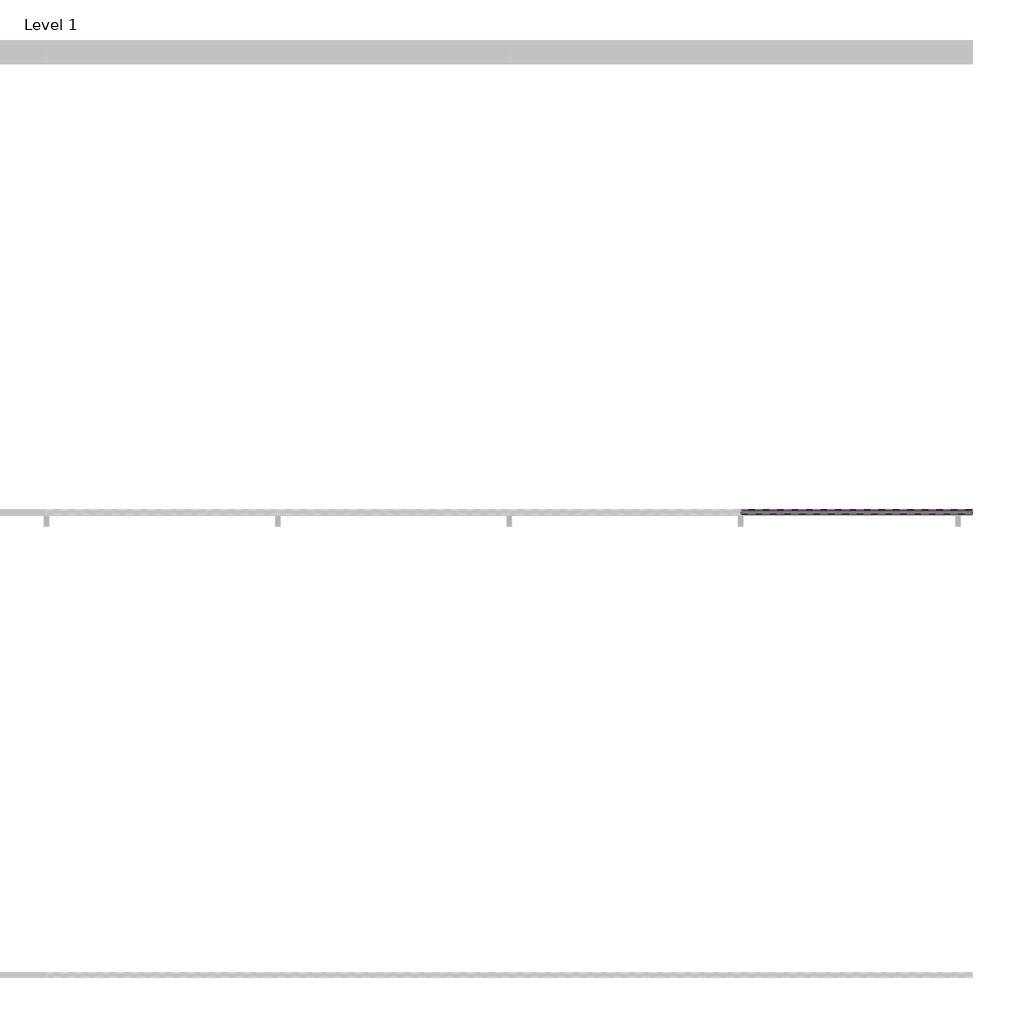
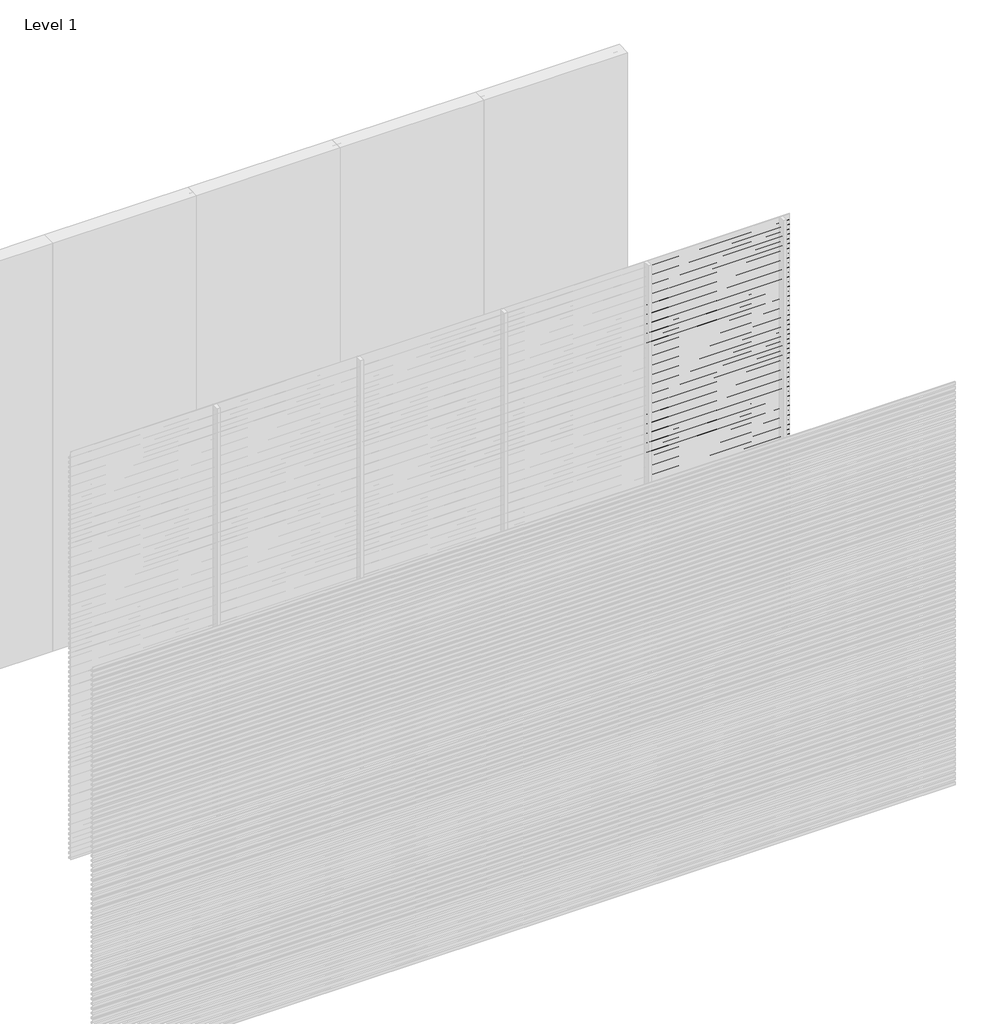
# One storey, part 19 of 25: 98 proxies.
"""IFC4 building model written with IfcOpenShell, lengths in millimetres."""

from ifc_helpers import new_model, si_unit, frame, origin, place, context, project, spatial, polyline, outline, extrude, element, save

model = new_model("IFC4")

# Units and contexts
model_context = context("Model", 3, world=origin())
ifc_project = project(units=[si_unit("LENGTHUNIT", "METRE", prefix="MILLI")], contexts=[model_context])

# Site, building, storey
site = spatial("IfcSite", under=ifc_project)
building = spatial("IfcBuilding", under=site)
storey = spatial("IfcBuildingStorey", under=building, Name="Level 1", Elevation=0.0)

# Proxies
placement = place(None, origin())
element("IfcBuildingElementProxy", 1, Name="Wall Sweeps", at=placement, inside=storey, context=model_context, shape_type="SweptSolid", body=[
    extrude(outline(polyline([(-5995.0, 1015.0), (-5995.0, 1003.942893), (-5976.0, 988.0), (-5976.0, 975.0), (-5997.0, 992.6210923), (-5997.0, 1015.0), (-5995.0, 1015.0)])), frame((4000.0, 0.0, 0.0), z_axis=(1.0, 0.0, 0.0), x_axis=(0.0, 1.0, 0.0)), (0.0, 0.0, 1.0), 1000.0),
])
element("IfcBuildingElementProxy", 2, Name="Wall Sweeps", at=placement, inside=storey, context=model_context, shape_type="SweptSolid", body=[
    extrude(outline(polyline([(-5995.0, 980.0), (-5995.0, 968.942893), (-5976.0, 953.0), (-5976.0, 940.0), (-5997.0, 957.6210923), (-5997.0, 980.0), (-5995.0, 980.0)])), frame((4000.0, 0.0, 0.0), z_axis=(1.0, 0.0, 0.0), x_axis=(0.0, 1.0, 0.0)), (0.0, 0.0, 1.0), 1000.0),
])
element("IfcBuildingElementProxy", 3, Name="Wall Sweeps", at=placement, inside=storey, context=model_context, shape_type="SweptSolid", body=[
    extrude(outline(polyline([(-5995.0, 945.0), (-5995.0, 933.942893), (-5976.0, 918.0), (-5976.0, 905.0), (-5997.0, 922.6210923), (-5997.0, 945.0), (-5995.0, 945.0)])), frame((4000.0, 0.0, 0.0), z_axis=(1.0, 0.0, 0.0), x_axis=(0.0, 1.0, 0.0)), (0.0, 0.0, 1.0), 1000.0),
])
element("IfcBuildingElementProxy", 4, Name="Wall Sweeps", at=placement, inside=storey, context=model_context, shape_type="SweptSolid", body=[
    extrude(outline(polyline([(-5995.0, 910.0), (-5995.0, 898.942893), (-5976.0, 883.0), (-5976.0, 870.0), (-5997.0, 887.6210923), (-5997.0, 910.0), (-5995.0, 910.0)])), frame((4000.0, 0.0, 0.0), z_axis=(1.0, 0.0, 0.0), x_axis=(0.0, 1.0, 0.0)), (0.0, 0.0, 1.0), 1000.0),
])
element("IfcBuildingElementProxy", 5, Name="Wall Sweeps", at=placement, inside=storey, context=model_context, shape_type="SweptSolid", body=[
    extrude(outline(polyline([(-5995.0, 875.0), (-5995.0, 863.942893), (-5976.0, 848.0), (-5976.0, 835.0), (-5997.0, 852.6210923), (-5997.0, 875.0), (-5995.0, 875.0)])), frame((4000.0, 0.0, 0.0), z_axis=(1.0, 0.0, 0.0), x_axis=(0.0, 1.0, 0.0)), (0.0, 0.0, 1.0), 1000.0),
])
element("IfcBuildingElementProxy", 6, Name="Wall Sweeps", at=placement, inside=storey, context=model_context, shape_type="SweptSolid", body=[
    extrude(outline(polyline([(-5995.0, 840.0), (-5995.0, 828.942893), (-5976.0, 813.0), (-5976.0, 800.0), (-5997.0, 817.6210923), (-5997.0, 840.0), (-5995.0, 840.0)])), frame((4000.0, 0.0, 0.0), z_axis=(1.0, 0.0, 0.0), x_axis=(0.0, 1.0, 0.0)), (0.0, 0.0, 1.0), 1000.0),
])
element("IfcBuildingElementProxy", 7, Name="Wall Sweeps", at=placement, inside=storey, context=model_context, shape_type="SweptSolid", body=[
    extrude(outline(polyline([(-5995.0, 805.0), (-5995.0, 793.942893), (-5976.0, 778.0), (-5976.0, 765.0), (-5997.0, 782.6210923), (-5997.0, 805.0), (-5995.0, 805.0)])), frame((4000.0, 0.0, 0.0), z_axis=(1.0, 0.0, 0.0), x_axis=(0.0, 1.0, 0.0)), (0.0, 0.0, 1.0), 1000.0),
])
element("IfcBuildingElementProxy", 8, Name="Wall Sweeps", at=placement, inside=storey, context=model_context, shape_type="SweptSolid", body=[
    extrude(outline(polyline([(-5995.0, 770.0), (-5995.0, 758.942893), (-5976.0, 743.0), (-5976.0, 730.0), (-5997.0, 747.6210923), (-5997.0, 770.0), (-5995.0, 770.0)])), frame((4000.0, 0.0, 0.0), z_axis=(1.0, 0.0, 0.0), x_axis=(0.0, 1.0, 0.0)), (0.0, 0.0, 1.0), 1000.0),
])
element("IfcBuildingElementProxy", 9, Name="Wall Sweeps", at=placement, inside=storey, context=model_context, shape_type="SweptSolid", body=[
    extrude(outline(polyline([(-5995.0, 735.0), (-5995.0, 723.942893), (-5976.0, 708.0), (-5976.0, 695.0), (-5997.0, 712.6210923), (-5997.0, 735.0), (-5995.0, 735.0)])), frame((4000.0, 0.0, 0.0), z_axis=(1.0, 0.0, 0.0), x_axis=(0.0, 1.0, 0.0)), (0.0, 0.0, 1.0), 1000.0),
])
element("IfcBuildingElementProxy", 10, Name="Wall Sweeps", at=placement, inside=storey, context=model_context, shape_type="SweptSolid", body=[
    extrude(outline(polyline([(-5995.0, 700.0), (-5995.0, 688.942893), (-5976.0, 673.0), (-5976.0, 660.0), (-5997.0, 677.6210923), (-5997.0, 700.0), (-5995.0, 700.0)])), frame((4000.0, 0.0, 0.0), z_axis=(1.0, 0.0, 0.0), x_axis=(0.0, 1.0, 0.0)), (0.0, 0.0, 1.0), 1000.0),
])
element("IfcBuildingElementProxy", 11, Name="Wall Sweeps", at=placement, inside=storey, context=model_context, shape_type="SweptSolid", body=[
    extrude(outline(polyline([(-5995.0, 665.0), (-5995.0, 653.942893), (-5976.0, 638.0), (-5976.0, 625.0), (-5997.0, 642.6210923), (-5997.0, 665.0), (-5995.0, 665.0)])), frame((4000.0, 0.0, 0.0), z_axis=(1.0, 0.0, 0.0), x_axis=(0.0, 1.0, 0.0)), (0.0, 0.0, 1.0), 1000.0),
])
element("IfcBuildingElementProxy", 12, Name="Wall Sweeps", at=placement, inside=storey, context=model_context, shape_type="SweptSolid", body=[
    extrude(outline(polyline([(-5995.0, 630.0), (-5995.0, 618.942893), (-5976.0, 603.0), (-5976.0, 590.0), (-5997.0, 607.6210923), (-5997.0, 630.0), (-5995.0, 630.0)])), frame((4000.0, 0.0, 0.0), z_axis=(1.0, 0.0, 0.0), x_axis=(0.0, 1.0, 0.0)), (0.0, 0.0, 1.0), 1000.0),
])
element("IfcBuildingElementProxy", 13, Name="Wall Sweeps", at=placement, inside=storey, context=model_context, shape_type="SweptSolid", body=[
    extrude(outline(polyline([(-5995.0, 595.0), (-5995.0, 583.942893), (-5976.0, 568.0), (-5976.0, 555.0), (-5997.0, 572.6210923), (-5997.0, 595.0), (-5995.0, 595.0)])), frame((4000.0, 0.0, 0.0), z_axis=(1.0, 0.0, 0.0), x_axis=(0.0, 1.0, 0.0)), (0.0, 0.0, 1.0), 1000.0),
])
element("IfcBuildingElementProxy", 14, Name="Wall Sweeps", at=placement, inside=storey, context=model_context, shape_type="SweptSolid", body=[
    extrude(outline(polyline([(-5995.0, 560.0), (-5995.0, 548.942893), (-5976.0, 533.0), (-5976.0, 520.0), (-5997.0, 537.6210923), (-5997.0, 560.0), (-5995.0, 560.0)])), frame((4000.0, 0.0, 0.0), z_axis=(1.0, 0.0, 0.0), x_axis=(0.0, 1.0, 0.0)), (0.0, 0.0, 1.0), 1000.0),
])
element("IfcBuildingElementProxy", 15, Name="Wall Sweeps", at=placement, inside=storey, context=model_context, shape_type="SweptSolid", body=[
    extrude(outline(polyline([(-5995.0, 525.0), (-5995.0, 513.942893), (-5976.0, 498.0), (-5976.0, 485.0), (-5997.0, 502.6210923), (-5997.0, 525.0), (-5995.0, 525.0)])), frame((4000.0, 0.0, 0.0), z_axis=(1.0, 0.0, 0.0), x_axis=(0.0, 1.0, 0.0)), (0.0, 0.0, 1.0), 1000.0),
])
element("IfcBuildingElementProxy", 16, Name="Wall Sweeps", at=placement, inside=storey, context=model_context, shape_type="SweptSolid", body=[
    extrude(outline(polyline([(-5995.0, 490.0), (-5995.0, 478.942893), (-5976.0, 463.0), (-5976.0, 450.0), (-5997.0, 467.6210923), (-5997.0, 490.0), (-5995.0, 490.0)])), frame((4000.0, 0.0, 0.0), z_axis=(1.0, 0.0, 0.0), x_axis=(0.0, 1.0, 0.0)), (0.0, 0.0, 1.0), 1000.0),
])
element("IfcBuildingElementProxy", 17, Name="Wall Sweeps", at=placement, inside=storey, context=model_context, shape_type="SweptSolid", body=[
    extrude(outline(polyline([(-5995.0, 455.0), (-5995.0, 443.942893), (-5976.0, 428.0), (-5976.0, 415.0), (-5997.0, 432.6210923), (-5997.0, 455.0), (-5995.0, 455.0)])), frame((4000.0, 0.0, 0.0), z_axis=(1.0, 0.0, 0.0), x_axis=(0.0, 1.0, 0.0)), (0.0, 0.0, 1.0), 1000.0),
])
element("IfcBuildingElementProxy", 18, Name="Wall Sweeps", at=placement, inside=storey, context=model_context, shape_type="SweptSolid", body=[
    extrude(outline(polyline([(-5995.0, 420.0), (-5995.0, 408.942893), (-5976.0, 393.0), (-5976.0, 380.0), (-5997.0, 397.6210923), (-5997.0, 420.0), (-5995.0, 420.0)])), frame((4000.0, 0.0, 0.0), z_axis=(1.0, 0.0, 0.0), x_axis=(0.0, 1.0, 0.0)), (0.0, 0.0, 1.0), 1000.0),
])
element("IfcBuildingElementProxy", 19, Name="Wall Sweeps", at=placement, inside=storey, context=model_context, shape_type="SweptSolid", body=[
    extrude(outline(polyline([(-5995.0, 385.0), (-5995.0, 373.942893), (-5976.0, 358.0), (-5976.0, 345.0), (-5997.0, 362.6210923), (-5997.0, 385.0), (-5995.0, 385.0)])), frame((4000.0, 0.0, 0.0), z_axis=(1.0, 0.0, 0.0), x_axis=(0.0, 1.0, 0.0)), (0.0, 0.0, 1.0), 1000.0),
])
element("IfcBuildingElementProxy", 20, Name="Wall Sweeps", at=placement, inside=storey, context=model_context, shape_type="SweptSolid", body=[
    extrude(outline(polyline([(-5995.0, 350.0), (-5995.0, 338.942893), (-5976.0, 323.0), (-5976.0, 310.0), (-5997.0, 327.6210923), (-5997.0, 350.0), (-5995.0, 350.0)])), frame((4000.0, 0.0, 0.0), z_axis=(1.0, 0.0, 0.0), x_axis=(0.0, 1.0, 0.0)), (0.0, 0.0, 1.0), 1000.0),
])
element("IfcBuildingElementProxy", 21, Name="Wall Sweeps", at=placement, inside=storey, context=model_context, shape_type="SweptSolid", body=[
    extrude(outline(polyline([(-5995.0, 315.0), (-5995.0, 303.942893), (-5976.0, 288.0), (-5976.0, 275.0), (-5997.0, 292.6210923), (-5997.0, 315.0), (-5995.0, 315.0)])), frame((4000.0, 0.0, 0.0), z_axis=(1.0, 0.0, 0.0), x_axis=(0.0, 1.0, 0.0)), (0.0, 0.0, 1.0), 1000.0),
])
element("IfcBuildingElementProxy", 22, Name="Wall Sweeps", at=placement, inside=storey, context=model_context, shape_type="SweptSolid", body=[
    extrude(outline(polyline([(-5995.0, 280.0), (-5995.0, 268.942893), (-5976.0, 253.0), (-5976.0, 240.0), (-5997.0, 257.6210923), (-5997.0, 280.0), (-5995.0, 280.0)])), frame((4000.0, 0.0, 0.0), z_axis=(1.0, 0.0, 0.0), x_axis=(0.0, 1.0, 0.0)), (0.0, 0.0, 1.0), 1000.0),
])
element("IfcBuildingElementProxy", 23, Name="Wall Sweeps", at=placement, inside=storey, context=model_context, shape_type="SweptSolid", body=[
    extrude(outline(polyline([(-5995.0, 245.0), (-5995.0, 233.942893), (-5976.0, 218.0), (-5976.0, 205.0), (-5997.0, 222.6210923), (-5997.0, 245.0), (-5995.0, 245.0)])), frame((4000.0, 0.0, 0.0), z_axis=(1.0, 0.0, 0.0), x_axis=(0.0, 1.0, 0.0)), (0.0, 0.0, 1.0), 1000.0),
])
element("IfcBuildingElementProxy", 24, Name="Wall Sweeps", at=placement, inside=storey, context=model_context, shape_type="SweptSolid", body=[
    extrude(outline(polyline([(-5995.0, 210.0), (-5995.0, 198.942893), (-5976.0, 183.0), (-5976.0, 170.0), (-5997.0, 187.6210923), (-5997.0, 210.0), (-5995.0, 210.0)])), frame((4000.0, 0.0, 0.0), z_axis=(1.0, 0.0, 0.0), x_axis=(0.0, 1.0, 0.0)), (0.0, 0.0, 1.0), 1000.0),
])
element("IfcBuildingElementProxy", 25, Name="Wall Sweeps", at=placement, inside=storey, context=model_context, shape_type="SweptSolid", body=[
    extrude(outline(polyline([(-5995.0, 175.0), (-5995.0, 163.942893), (-5976.0, 148.0), (-5976.0, 135.0), (-5997.0, 152.6210923), (-5997.0, 175.0), (-5995.0, 175.0)])), frame((4000.0, 0.0, 0.0), z_axis=(1.0, 0.0, 0.0), x_axis=(0.0, 1.0, 0.0)), (0.0, 0.0, 1.0), 1000.0),
])
element("IfcBuildingElementProxy", 26, Name="Wall Sweeps", at=placement, inside=storey, context=model_context, shape_type="SweptSolid", body=[
    extrude(outline(polyline([(-5995.0, 140.0), (-5995.0, 128.942893), (-5976.0, 113.0), (-5976.0, 100.0), (-5997.0, 117.6210923), (-5997.0, 140.0), (-5995.0, 140.0)])), frame((4000.0, 0.0, 0.0), z_axis=(1.0, 0.0, 0.0), x_axis=(0.0, 1.0, 0.0)), (0.0, 0.0, 1.0), 1000.0),
])
element("IfcBuildingElementProxy", 27, Name="Wall Sweeps", at=placement, inside=storey, context=model_context, shape_type="SweptSolid", body=[
    extrude(outline(polyline([(-5995.0, 105.0), (-5995.0, 93.942893), (-5976.0, 78.0), (-5976.0, 65.0), (-5997.0, 82.6210923), (-5997.0, 105.0), (-5995.0, 105.0)])), frame((4000.0, 0.0, 0.0), z_axis=(1.0, 0.0, 0.0), x_axis=(0.0, 1.0, 0.0)), (0.0, 0.0, 1.0), 1000.0),
])
element("IfcBuildingElementProxy", 28, Name="Wall Sweeps", at=placement, inside=storey, context=model_context, shape_type="SweptSolid", body=[
    extrude(outline(polyline([(-5995.0, 70.0), (-5995.0, 58.942893), (-5976.0, 43.0), (-5976.0, 30.0), (-5997.0, 47.6210923), (-5997.0, 70.0), (-5995.0, 70.0)])), frame((4000.0, 0.0, 0.0), z_axis=(1.0, 0.0, 0.0), x_axis=(0.0, 1.0, 0.0)), (0.0, 0.0, 1.0), 1000.0),
])
element("IfcBuildingElementProxy", 29, Name="Wall Sweeps", at=placement, inside=storey, context=model_context, shape_type="SweptSolid", body=[
    extrude(outline(polyline([(-5995.0, 35.0), (-5995.0, 23.942893), (-5976.0, 8.0), (-5976.0, -5.0), (-5997.0, 12.6210923), (-5997.0, 35.0), (-5995.0, 35.0)])), frame((4000.0, 0.0, 0.0), z_axis=(1.0, 0.0, 0.0), x_axis=(0.0, 1.0, 0.0)), (0.0, 0.0, 1.0), 1000.0),
])
element("IfcBuildingElementProxy", 30, Name="Wall Sweeps", at=placement, inside=storey, context=model_context, shape_type="SweptSolid", body=[
    extrude(outline(polyline([(-5995.0, 2975.0), (-5995.0, 2963.942893), (-5976.0, 2948.0), (-5976.0, 2935.0), (-5997.0, 2952.6210923), (-5997.0, 2975.0), (-5995.0, 2975.0)])), frame((5000.0, 0.0, 0.0), z_axis=(1.0, 0.0, 0.0), x_axis=(0.0, 1.0, 0.0)), (0.0, 0.0, 1.0), 1000.0),
])
element("IfcBuildingElementProxy", 31, Name="Wall Sweeps", at=placement, inside=storey, context=model_context, shape_type="SweptSolid", body=[
    extrude(outline(polyline([(-5995.0, 2940.0), (-5995.0, 2928.942893), (-5976.0, 2913.0), (-5976.0, 2900.0), (-5997.0, 2917.6210923), (-5997.0, 2940.0), (-5995.0, 2940.0)])), frame((5000.0, 0.0, 0.0), z_axis=(1.0, 0.0, 0.0), x_axis=(0.0, 1.0, 0.0)), (0.0, 0.0, 1.0), 1000.0),
])
element("IfcBuildingElementProxy", 32, Name="Wall Sweeps", at=placement, inside=storey, context=model_context, shape_type="SweptSolid", body=[
    extrude(outline(polyline([(-5995.0, 2905.0), (-5995.0, 2893.942893), (-5976.0, 2878.0), (-5976.0, 2865.0), (-5997.0, 2882.6210923), (-5997.0, 2905.0), (-5995.0, 2905.0)])), frame((5000.0, 0.0, 0.0), z_axis=(1.0, 0.0, 0.0), x_axis=(0.0, 1.0, 0.0)), (0.0, 0.0, 1.0), 1000.0),
])
element("IfcBuildingElementProxy", 33, Name="Wall Sweeps", at=placement, inside=storey, context=model_context, shape_type="SweptSolid", body=[
    extrude(outline(polyline([(-5995.0, 2870.0), (-5995.0, 2858.942893), (-5976.0, 2843.0), (-5976.0, 2830.0), (-5997.0, 2847.6210923), (-5997.0, 2870.0), (-5995.0, 2870.0)])), frame((5000.0, 0.0, 0.0), z_axis=(1.0, 0.0, 0.0), x_axis=(0.0, 1.0, 0.0)), (0.0, 0.0, 1.0), 1000.0),
])
element("IfcBuildingElementProxy", 34, Name="Wall Sweeps", at=placement, inside=storey, context=model_context, shape_type="SweptSolid", body=[
    extrude(outline(polyline([(-5995.0, 2835.0), (-5995.0, 2823.942893), (-5976.0, 2808.0), (-5976.0, 2795.0), (-5997.0, 2812.6210923), (-5997.0, 2835.0), (-5995.0, 2835.0)])), frame((5000.0, 0.0, 0.0), z_axis=(1.0, 0.0, 0.0), x_axis=(0.0, 1.0, 0.0)), (0.0, 0.0, 1.0), 1000.0),
])
element("IfcBuildingElementProxy", 35, Name="Wall Sweeps", at=placement, inside=storey, context=model_context, shape_type="SweptSolid", body=[
    extrude(outline(polyline([(-5995.0, 2800.0), (-5995.0, 2788.942893), (-5976.0, 2773.0), (-5976.0, 2760.0), (-5997.0, 2777.6210923), (-5997.0, 2800.0), (-5995.0, 2800.0)])), frame((5000.0, 0.0, 0.0), z_axis=(1.0, 0.0, 0.0), x_axis=(0.0, 1.0, 0.0)), (0.0, 0.0, 1.0), 1000.0),
])
element("IfcBuildingElementProxy", 36, Name="Wall Sweeps", at=placement, inside=storey, context=model_context, shape_type="SweptSolid", body=[
    extrude(outline(polyline([(-5995.0, 2765.0), (-5995.0, 2753.942893), (-5976.0, 2738.0), (-5976.0, 2725.0), (-5997.0, 2742.6210923), (-5997.0, 2765.0), (-5995.0, 2765.0)])), frame((5000.0, 0.0, 0.0), z_axis=(1.0, 0.0, 0.0), x_axis=(0.0, 1.0, 0.0)), (0.0, 0.0, 1.0), 1000.0),
])
element("IfcBuildingElementProxy", 37, Name="Wall Sweeps", at=placement, inside=storey, context=model_context, shape_type="SweptSolid", body=[
    extrude(outline(polyline([(-5995.0, 2730.0), (-5995.0, 2718.942893), (-5976.0, 2703.0), (-5976.0, 2690.0), (-5997.0, 2707.6210923), (-5997.0, 2730.0), (-5995.0, 2730.0)])), frame((5000.0, 0.0, 0.0), z_axis=(1.0, 0.0, 0.0), x_axis=(0.0, 1.0, 0.0)), (0.0, 0.0, 1.0), 1000.0),
])
element("IfcBuildingElementProxy", 38, Name="Wall Sweeps", at=placement, inside=storey, context=model_context, shape_type="SweptSolid", body=[
    extrude(outline(polyline([(-5995.0, 2695.0), (-5995.0, 2683.942893), (-5976.0, 2668.0), (-5976.0, 2655.0), (-5997.0, 2672.6210923), (-5997.0, 2695.0), (-5995.0, 2695.0)])), frame((5000.0, 0.0, 0.0), z_axis=(1.0, 0.0, 0.0), x_axis=(0.0, 1.0, 0.0)), (0.0, 0.0, 1.0), 1000.0),
])
element("IfcBuildingElementProxy", 39, Name="Wall Sweeps", at=placement, inside=storey, context=model_context, shape_type="SweptSolid", body=[
    extrude(outline(polyline([(-5995.0, 2660.0), (-5995.0, 2648.942893), (-5976.0, 2633.0), (-5976.0, 2620.0), (-5997.0, 2637.6210923), (-5997.0, 2660.0), (-5995.0, 2660.0)])), frame((5000.0, 0.0, 0.0), z_axis=(1.0, 0.0, 0.0), x_axis=(0.0, 1.0, 0.0)), (0.0, 0.0, 1.0), 1000.0),
])
element("IfcBuildingElementProxy", 40, Name="Wall Sweeps", at=placement, inside=storey, context=model_context, shape_type="SweptSolid", body=[
    extrude(outline(polyline([(-5995.0, 2625.0), (-5995.0, 2613.942893), (-5976.0, 2598.0), (-5976.0, 2585.0), (-5997.0, 2602.6210923), (-5997.0, 2625.0), (-5995.0, 2625.0)])), frame((5000.0, 0.0, 0.0), z_axis=(1.0, 0.0, 0.0), x_axis=(0.0, 1.0, 0.0)), (0.0, 0.0, 1.0), 1000.0),
])
element("IfcBuildingElementProxy", 41, Name="Wall Sweeps", at=placement, inside=storey, context=model_context, shape_type="SweptSolid", body=[
    extrude(outline(polyline([(-5995.0, 2590.0), (-5995.0, 2578.942893), (-5976.0, 2563.0), (-5976.0, 2550.0), (-5997.0, 2567.6210923), (-5997.0, 2590.0), (-5995.0, 2590.0)])), frame((5000.0, 0.0, 0.0), z_axis=(1.0, 0.0, 0.0), x_axis=(0.0, 1.0, 0.0)), (0.0, 0.0, 1.0), 1000.0),
])
element("IfcBuildingElementProxy", 42, Name="Wall Sweeps", at=placement, inside=storey, context=model_context, shape_type="SweptSolid", body=[
    extrude(outline(polyline([(-5995.0, 2555.0), (-5995.0, 2543.942893), (-5976.0, 2528.0), (-5976.0, 2515.0), (-5997.0, 2532.6210923), (-5997.0, 2555.0), (-5995.0, 2555.0)])), frame((5000.0, 0.0, 0.0), z_axis=(1.0, 0.0, 0.0), x_axis=(0.0, 1.0, 0.0)), (0.0, 0.0, 1.0), 1000.0),
])
element("IfcBuildingElementProxy", 43, Name="Wall Sweeps", at=placement, inside=storey, context=model_context, shape_type="SweptSolid", body=[
    extrude(outline(polyline([(-5995.0, 2520.0), (-5995.0, 2508.942893), (-5976.0, 2493.0), (-5976.0, 2480.0), (-5997.0, 2497.6210923), (-5997.0, 2520.0), (-5995.0, 2520.0)])), frame((5000.0, 0.0, 0.0), z_axis=(1.0, 0.0, 0.0), x_axis=(0.0, 1.0, 0.0)), (0.0, 0.0, 1.0), 1000.0),
])
element("IfcBuildingElementProxy", 44, Name="Wall Sweeps", at=placement, inside=storey, context=model_context, shape_type="SweptSolid", body=[
    extrude(outline(polyline([(-5995.0, 2485.0), (-5995.0, 2473.942893), (-5976.0, 2458.0), (-5976.0, 2445.0), (-5997.0, 2462.6210923), (-5997.0, 2485.0), (-5995.0, 2485.0)])), frame((5000.0, 0.0, 0.0), z_axis=(1.0, 0.0, 0.0), x_axis=(0.0, 1.0, 0.0)), (0.0, 0.0, 1.0), 1000.0),
])
element("IfcBuildingElementProxy", 45, Name="Wall Sweeps", at=placement, inside=storey, context=model_context, shape_type="SweptSolid", body=[
    extrude(outline(polyline([(-5995.0, 2450.0), (-5995.0, 2438.942893), (-5976.0, 2423.0), (-5976.0, 2410.0), (-5997.0, 2427.6210923), (-5997.0, 2450.0), (-5995.0, 2450.0)])), frame((5000.0, 0.0, 0.0), z_axis=(1.0, 0.0, 0.0), x_axis=(0.0, 1.0, 0.0)), (0.0, 0.0, 1.0), 1000.0),
])
element("IfcBuildingElementProxy", 46, Name="Wall Sweeps", at=placement, inside=storey, context=model_context, shape_type="SweptSolid", body=[
    extrude(outline(polyline([(-5995.0, 2415.0), (-5995.0, 2403.942893), (-5976.0, 2388.0), (-5976.0, 2375.0), (-5997.0, 2392.6210923), (-5997.0, 2415.0), (-5995.0, 2415.0)])), frame((5000.0, 0.0, 0.0), z_axis=(1.0, 0.0, 0.0), x_axis=(0.0, 1.0, 0.0)), (0.0, 0.0, 1.0), 1000.0),
])
element("IfcBuildingElementProxy", 47, Name="Wall Sweeps", at=placement, inside=storey, context=model_context, shape_type="SweptSolid", body=[
    extrude(outline(polyline([(-5995.0, 2380.0), (-5995.0, 2368.942893), (-5976.0, 2353.0), (-5976.0, 2340.0), (-5997.0, 2357.6210923), (-5997.0, 2380.0), (-5995.0, 2380.0)])), frame((5000.0, 0.0, 0.0), z_axis=(1.0, 0.0, 0.0), x_axis=(0.0, 1.0, 0.0)), (0.0, 0.0, 1.0), 1000.0),
])
element("IfcBuildingElementProxy", 48, Name="Wall Sweeps", at=placement, inside=storey, context=model_context, shape_type="SweptSolid", body=[
    extrude(outline(polyline([(-5995.0, 2345.0), (-5995.0, 2333.942893), (-5976.0, 2318.0), (-5976.0, 2305.0), (-5997.0, 2322.6210923), (-5997.0, 2345.0), (-5995.0, 2345.0)])), frame((5000.0, 0.0, 0.0), z_axis=(1.0, 0.0, 0.0), x_axis=(0.0, 1.0, 0.0)), (0.0, 0.0, 1.0), 1000.0),
])
element("IfcBuildingElementProxy", 49, Name="Wall Sweeps", at=placement, inside=storey, context=model_context, shape_type="SweptSolid", body=[
    extrude(outline(polyline([(-5995.0, 2310.0), (-5995.0, 2298.942893), (-5976.0, 2283.0), (-5976.0, 2270.0), (-5997.0, 2287.6210923), (-5997.0, 2310.0), (-5995.0, 2310.0)])), frame((5000.0, 0.0, 0.0), z_axis=(1.0, 0.0, 0.0), x_axis=(0.0, 1.0, 0.0)), (0.0, 0.0, 1.0), 1000.0),
])
element("IfcBuildingElementProxy", 50, Name="Wall Sweeps", at=placement, inside=storey, context=model_context, shape_type="SweptSolid", body=[
    extrude(outline(polyline([(-5995.0, 2275.0), (-5995.0, 2263.942893), (-5976.0, 2248.0), (-5976.0, 2235.0), (-5997.0, 2252.6210923), (-5997.0, 2275.0), (-5995.0, 2275.0)])), frame((5000.0, 0.0, 0.0), z_axis=(1.0, 0.0, 0.0), x_axis=(0.0, 1.0, 0.0)), (0.0, 0.0, 1.0), 1000.0),
])
element("IfcBuildingElementProxy", 51, Name="Wall Sweeps", at=placement, inside=storey, context=model_context, shape_type="SweptSolid", body=[
    extrude(outline(polyline([(-5995.0, 2240.0), (-5995.0, 2228.942893), (-5976.0, 2213.0), (-5976.0, 2200.0), (-5997.0, 2217.6210923), (-5997.0, 2240.0), (-5995.0, 2240.0)])), frame((5000.0, 0.0, 0.0), z_axis=(1.0, 0.0, 0.0), x_axis=(0.0, 1.0, 0.0)), (0.0, 0.0, 1.0), 1000.0),
])
element("IfcBuildingElementProxy", 52, Name="Wall Sweeps", at=placement, inside=storey, context=model_context, shape_type="SweptSolid", body=[
    extrude(outline(polyline([(-5995.0, 2205.0), (-5995.0, 2193.942893), (-5976.0, 2178.0), (-5976.0, 2165.0), (-5997.0, 2182.6210923), (-5997.0, 2205.0), (-5995.0, 2205.0)])), frame((5000.0, 0.0, 0.0), z_axis=(1.0, 0.0, 0.0), x_axis=(0.0, 1.0, 0.0)), (0.0, 0.0, 1.0), 1000.0),
])
element("IfcBuildingElementProxy", 53, Name="Wall Sweeps", at=placement, inside=storey, context=model_context, shape_type="SweptSolid", body=[
    extrude(outline(polyline([(-5995.0, 2170.0), (-5995.0, 2158.942893), (-5976.0, 2143.0), (-5976.0, 2130.0), (-5997.0, 2147.6210923), (-5997.0, 2170.0), (-5995.0, 2170.0)])), frame((5000.0, 0.0, 0.0), z_axis=(1.0, 0.0, 0.0), x_axis=(0.0, 1.0, 0.0)), (0.0, 0.0, 1.0), 1000.0),
])
element("IfcBuildingElementProxy", 54, Name="Wall Sweeps", at=placement, inside=storey, context=model_context, shape_type="SweptSolid", body=[
    extrude(outline(polyline([(-5995.0, 2135.0), (-5995.0, 2123.942893), (-5976.0, 2108.0), (-5976.0, 2095.0), (-5997.0, 2112.6210923), (-5997.0, 2135.0), (-5995.0, 2135.0)])), frame((5000.0, 0.0, 0.0), z_axis=(1.0, 0.0, 0.0), x_axis=(0.0, 1.0, 0.0)), (0.0, 0.0, 1.0), 1000.0),
])
element("IfcBuildingElementProxy", 55, Name="Wall Sweeps", at=placement, inside=storey, context=model_context, shape_type="SweptSolid", body=[
    extrude(outline(polyline([(-5995.0, 2100.0), (-5995.0, 2088.942893), (-5976.0, 2073.0), (-5976.0, 2060.0), (-5997.0, 2077.6210923), (-5997.0, 2100.0), (-5995.0, 2100.0)])), frame((5000.0, 0.0, 0.0), z_axis=(1.0, 0.0, 0.0), x_axis=(0.0, 1.0, 0.0)), (0.0, 0.0, 1.0), 1000.0),
])
element("IfcBuildingElementProxy", 56, Name="Wall Sweeps", at=placement, inside=storey, context=model_context, shape_type="SweptSolid", body=[
    extrude(outline(polyline([(-5995.0, 2065.0), (-5995.0, 2053.942893), (-5976.0, 2038.0), (-5976.0, 2025.0), (-5997.0, 2042.6210923), (-5997.0, 2065.0), (-5995.0, 2065.0)])), frame((5000.0, 0.0, 0.0), z_axis=(1.0, 0.0, 0.0), x_axis=(0.0, 1.0, 0.0)), (0.0, 0.0, 1.0), 1000.0),
])
element("IfcBuildingElementProxy", 57, Name="Wall Sweeps", at=placement, inside=storey, context=model_context, shape_type="SweptSolid", body=[
    extrude(outline(polyline([(-5995.0, 2030.0), (-5995.0, 2018.942893), (-5976.0, 2003.0), (-5976.0, 1990.0), (-5997.0, 2007.6210923), (-5997.0, 2030.0), (-5995.0, 2030.0)])), frame((5000.0, 0.0, 0.0), z_axis=(1.0, 0.0, 0.0), x_axis=(0.0, 1.0, 0.0)), (0.0, 0.0, 1.0), 1000.0),
])
element("IfcBuildingElementProxy", 58, Name="Wall Sweeps", at=placement, inside=storey, context=model_context, shape_type="SweptSolid", body=[
    extrude(outline(polyline([(-5995.0, 1995.0), (-5995.0, 1983.942893), (-5976.0, 1968.0), (-5976.0, 1955.0), (-5997.0, 1972.6210923), (-5997.0, 1995.0), (-5995.0, 1995.0)])), frame((5000.0, 0.0, 0.0), z_axis=(1.0, 0.0, 0.0), x_axis=(0.0, 1.0, 0.0)), (0.0, 0.0, 1.0), 1000.0),
])
element("IfcBuildingElementProxy", 59, Name="Wall Sweeps", at=placement, inside=storey, context=model_context, shape_type="SweptSolid", body=[
    extrude(outline(polyline([(-5995.0, 1960.0), (-5995.0, 1948.942893), (-5976.0, 1933.0), (-5976.0, 1920.0), (-5997.0, 1937.6210923), (-5997.0, 1960.0), (-5995.0, 1960.0)])), frame((5000.0, 0.0, 0.0), z_axis=(1.0, 0.0, 0.0), x_axis=(0.0, 1.0, 0.0)), (0.0, 0.0, 1.0), 1000.0),
])
element("IfcBuildingElementProxy", 60, Name="Wall Sweeps", at=placement, inside=storey, context=model_context, shape_type="SweptSolid", body=[
    extrude(outline(polyline([(-5995.0, 1925.0), (-5995.0, 1913.942893), (-5976.0, 1898.0), (-5976.0, 1885.0), (-5997.0, 1902.6210923), (-5997.0, 1925.0), (-5995.0, 1925.0)])), frame((5000.0, 0.0, 0.0), z_axis=(1.0, 0.0, 0.0), x_axis=(0.0, 1.0, 0.0)), (0.0, 0.0, 1.0), 1000.0),
])
element("IfcBuildingElementProxy", 61, Name="Wall Sweeps", at=placement, inside=storey, context=model_context, shape_type="SweptSolid", body=[
    extrude(outline(polyline([(-5995.0, 1890.0), (-5995.0, 1878.942893), (-5976.0, 1863.0), (-5976.0, 1850.0), (-5997.0, 1867.6210923), (-5997.0, 1890.0), (-5995.0, 1890.0)])), frame((5000.0, 0.0, 0.0), z_axis=(1.0, 0.0, 0.0), x_axis=(0.0, 1.0, 0.0)), (0.0, 0.0, 1.0), 1000.0),
])
element("IfcBuildingElementProxy", 62, Name="Wall Sweeps", at=placement, inside=storey, context=model_context, shape_type="SweptSolid", body=[
    extrude(outline(polyline([(-5995.0, 1855.0), (-5995.0, 1843.942893), (-5976.0, 1828.0), (-5976.0, 1815.0), (-5997.0, 1832.6210923), (-5997.0, 1855.0), (-5995.0, 1855.0)])), frame((5000.0, 0.0, 0.0), z_axis=(1.0, 0.0, 0.0), x_axis=(0.0, 1.0, 0.0)), (0.0, 0.0, 1.0), 1000.0),
])
element("IfcBuildingElementProxy", 63, Name="Wall Sweeps", at=placement, inside=storey, context=model_context, shape_type="SweptSolid", body=[
    extrude(outline(polyline([(-5995.0, 1820.0), (-5995.0, 1808.942893), (-5976.0, 1793.0), (-5976.0, 1780.0), (-5997.0, 1797.6210923), (-5997.0, 1820.0), (-5995.0, 1820.0)])), frame((5000.0, 0.0, 0.0), z_axis=(1.0, 0.0, 0.0), x_axis=(0.0, 1.0, 0.0)), (0.0, 0.0, 1.0), 1000.0),
])
element("IfcBuildingElementProxy", 64, Name="Wall Sweeps", at=placement, inside=storey, context=model_context, shape_type="SweptSolid", body=[
    extrude(outline(polyline([(-5995.0, 1785.0), (-5995.0, 1773.942893), (-5976.0, 1758.0), (-5976.0, 1745.0), (-5997.0, 1762.6210923), (-5997.0, 1785.0), (-5995.0, 1785.0)])), frame((5000.0, 0.0, 0.0), z_axis=(1.0, 0.0, 0.0), x_axis=(0.0, 1.0, 0.0)), (0.0, 0.0, 1.0), 1000.0),
])
element("IfcBuildingElementProxy", 65, Name="Wall Sweeps", at=placement, inside=storey, context=model_context, shape_type="SweptSolid", body=[
    extrude(outline(polyline([(-5995.0, 1750.0), (-5995.0, 1738.942893), (-5976.0, 1723.0), (-5976.0, 1710.0), (-5997.0, 1727.6210923), (-5997.0, 1750.0), (-5995.0, 1750.0)])), frame((5000.0, 0.0, 0.0), z_axis=(1.0, 0.0, 0.0), x_axis=(0.0, 1.0, 0.0)), (0.0, 0.0, 1.0), 1000.0),
])
element("IfcBuildingElementProxy", 66, Name="Wall Sweeps", at=placement, inside=storey, context=model_context, shape_type="SweptSolid", body=[
    extrude(outline(polyline([(-5995.0, 1715.0), (-5995.0, 1703.942893), (-5976.0, 1688.0), (-5976.0, 1675.0), (-5997.0, 1692.6210923), (-5997.0, 1715.0), (-5995.0, 1715.0)])), frame((5000.0, 0.0, 0.0), z_axis=(1.0, 0.0, 0.0), x_axis=(0.0, 1.0, 0.0)), (0.0, 0.0, 1.0), 1000.0),
])
element("IfcBuildingElementProxy", 67, Name="Wall Sweeps", at=placement, inside=storey, context=model_context, shape_type="SweptSolid", body=[
    extrude(outline(polyline([(-5995.0, 1680.0), (-5995.0, 1668.942893), (-5976.0, 1653.0), (-5976.0, 1640.0), (-5997.0, 1657.6210923), (-5997.0, 1680.0), (-5995.0, 1680.0)])), frame((5000.0, 0.0, 0.0), z_axis=(1.0, 0.0, 0.0), x_axis=(0.0, 1.0, 0.0)), (0.0, 0.0, 1.0), 1000.0),
])
element("IfcBuildingElementProxy", 68, Name="Wall Sweeps", at=placement, inside=storey, context=model_context, shape_type="SweptSolid", body=[
    extrude(outline(polyline([(-5995.0, 1645.0), (-5995.0, 1633.942893), (-5976.0, 1618.0), (-5976.0, 1605.0), (-5997.0, 1622.6210923), (-5997.0, 1645.0), (-5995.0, 1645.0)])), frame((5000.0, 0.0, 0.0), z_axis=(1.0, 0.0, 0.0), x_axis=(0.0, 1.0, 0.0)), (0.0, 0.0, 1.0), 1000.0),
])
element("IfcBuildingElementProxy", 69, Name="Wall Sweeps", at=placement, inside=storey, context=model_context, shape_type="SweptSolid", body=[
    extrude(outline(polyline([(-5995.0, 1610.0), (-5995.0, 1598.942893), (-5976.0, 1583.0), (-5976.0, 1570.0), (-5997.0, 1587.6210923), (-5997.0, 1610.0), (-5995.0, 1610.0)])), frame((5000.0, 0.0, 0.0), z_axis=(1.0, 0.0, 0.0), x_axis=(0.0, 1.0, 0.0)), (0.0, 0.0, 1.0), 1000.0),
])
element("IfcBuildingElementProxy", 70, Name="Wall Sweeps", at=placement, inside=storey, context=model_context, shape_type="SweptSolid", body=[
    extrude(outline(polyline([(-5995.0, 1575.0), (-5995.0, 1563.942893), (-5976.0, 1548.0), (-5976.0, 1535.0), (-5997.0, 1552.6210923), (-5997.0, 1575.0), (-5995.0, 1575.0)])), frame((5000.0, 0.0, 0.0), z_axis=(1.0, 0.0, 0.0), x_axis=(0.0, 1.0, 0.0)), (0.0, 0.0, 1.0), 1000.0),
])
element("IfcBuildingElementProxy", 71, Name="Wall Sweeps", at=placement, inside=storey, context=model_context, shape_type="SweptSolid", body=[
    extrude(outline(polyline([(-5995.0, 1540.0), (-5995.0, 1528.942893), (-5976.0, 1513.0), (-5976.0, 1500.0), (-5997.0, 1517.6210923), (-5997.0, 1540.0), (-5995.0, 1540.0)])), frame((5000.0, 0.0, 0.0), z_axis=(1.0, 0.0, 0.0), x_axis=(0.0, 1.0, 0.0)), (0.0, 0.0, 1.0), 1000.0),
])
element("IfcBuildingElementProxy", 72, Name="Wall Sweeps", at=placement, inside=storey, context=model_context, shape_type="SweptSolid", body=[
    extrude(outline(polyline([(-5995.0, 1505.0), (-5995.0, 1493.942893), (-5976.0, 1478.0), (-5976.0, 1465.0), (-5997.0, 1482.6210923), (-5997.0, 1505.0), (-5995.0, 1505.0)])), frame((5000.0, 0.0, 0.0), z_axis=(1.0, 0.0, 0.0), x_axis=(0.0, 1.0, 0.0)), (0.0, 0.0, 1.0), 1000.0),
])
element("IfcBuildingElementProxy", 73, Name="Wall Sweeps", at=placement, inside=storey, context=model_context, shape_type="SweptSolid", body=[
    extrude(outline(polyline([(-5995.0, 1470.0), (-5995.0, 1458.942893), (-5976.0, 1443.0), (-5976.0, 1430.0), (-5997.0, 1447.6210923), (-5997.0, 1470.0), (-5995.0, 1470.0)])), frame((5000.0, 0.0, 0.0), z_axis=(1.0, 0.0, 0.0), x_axis=(0.0, 1.0, 0.0)), (0.0, 0.0, 1.0), 1000.0),
])
element("IfcBuildingElementProxy", 74, Name="Wall Sweeps", at=placement, inside=storey, context=model_context, shape_type="SweptSolid", body=[
    extrude(outline(polyline([(-5995.0, 1435.0), (-5995.0, 1423.942893), (-5976.0, 1408.0), (-5976.0, 1395.0), (-5997.0, 1412.6210923), (-5997.0, 1435.0), (-5995.0, 1435.0)])), frame((5000.0, 0.0, 0.0), z_axis=(1.0, 0.0, 0.0), x_axis=(0.0, 1.0, 0.0)), (0.0, 0.0, 1.0), 1000.0),
])
element("IfcBuildingElementProxy", 75, Name="Wall Sweeps", at=placement, inside=storey, context=model_context, shape_type="SweptSolid", body=[
    extrude(outline(polyline([(-5995.0, 1400.0), (-5995.0, 1388.942893), (-5976.0, 1373.0), (-5976.0, 1360.0), (-5997.0, 1377.6210923), (-5997.0, 1400.0), (-5995.0, 1400.0)])), frame((5000.0, 0.0, 0.0), z_axis=(1.0, 0.0, 0.0), x_axis=(0.0, 1.0, 0.0)), (0.0, 0.0, 1.0), 1000.0),
])
element("IfcBuildingElementProxy", 76, Name="Wall Sweeps", at=placement, inside=storey, context=model_context, shape_type="SweptSolid", body=[
    extrude(outline(polyline([(-5995.0, 1365.0), (-5995.0, 1353.942893), (-5976.0, 1338.0), (-5976.0, 1325.0), (-5997.0, 1342.6210923), (-5997.0, 1365.0), (-5995.0, 1365.0)])), frame((5000.0, 0.0, 0.0), z_axis=(1.0, 0.0, 0.0), x_axis=(0.0, 1.0, 0.0)), (0.0, 0.0, 1.0), 1000.0),
])
element("IfcBuildingElementProxy", 77, Name="Wall Sweeps", at=placement, inside=storey, context=model_context, shape_type="SweptSolid", body=[
    extrude(outline(polyline([(-5995.0, 1330.0), (-5995.0, 1318.942893), (-5976.0, 1303.0), (-5976.0, 1290.0), (-5997.0, 1307.6210923), (-5997.0, 1330.0), (-5995.0, 1330.0)])), frame((5000.0, 0.0, 0.0), z_axis=(1.0, 0.0, 0.0), x_axis=(0.0, 1.0, 0.0)), (0.0, 0.0, 1.0), 1000.0),
])
element("IfcBuildingElementProxy", 78, Name="Wall Sweeps", at=placement, inside=storey, context=model_context, shape_type="SweptSolid", body=[
    extrude(outline(polyline([(-5995.0, 1295.0), (-5995.0, 1283.942893), (-5976.0, 1268.0), (-5976.0, 1255.0), (-5997.0, 1272.6210923), (-5997.0, 1295.0), (-5995.0, 1295.0)])), frame((5000.0, 0.0, 0.0), z_axis=(1.0, 0.0, 0.0), x_axis=(0.0, 1.0, 0.0)), (0.0, 0.0, 1.0), 1000.0),
])
element("IfcBuildingElementProxy", 79, Name="Wall Sweeps", at=placement, inside=storey, context=model_context, shape_type="SweptSolid", body=[
    extrude(outline(polyline([(-5995.0, 1260.0), (-5995.0, 1248.942893), (-5976.0, 1233.0), (-5976.0, 1220.0), (-5997.0, 1237.6210923), (-5997.0, 1260.0), (-5995.0, 1260.0)])), frame((5000.0, 0.0, 0.0), z_axis=(1.0, 0.0, 0.0), x_axis=(0.0, 1.0, 0.0)), (0.0, 0.0, 1.0), 1000.0),
])
element("IfcBuildingElementProxy", 80, Name="Wall Sweeps", at=placement, inside=storey, context=model_context, shape_type="SweptSolid", body=[
    extrude(outline(polyline([(-5995.0, 1225.0), (-5995.0, 1213.942893), (-5976.0, 1198.0), (-5976.0, 1185.0), (-5997.0, 1202.6210923), (-5997.0, 1225.0), (-5995.0, 1225.0)])), frame((5000.0, 0.0, 0.0), z_axis=(1.0, 0.0, 0.0), x_axis=(0.0, 1.0, 0.0)), (0.0, 0.0, 1.0), 1000.0),
])
element("IfcBuildingElementProxy", 81, Name="Wall Sweeps", at=placement, inside=storey, context=model_context, shape_type="SweptSolid", body=[
    extrude(outline(polyline([(-5995.0, 1190.0), (-5995.0, 1178.942893), (-5976.0, 1163.0), (-5976.0, 1150.0), (-5997.0, 1167.6210923), (-5997.0, 1190.0), (-5995.0, 1190.0)])), frame((5000.0, 0.0, 0.0), z_axis=(1.0, 0.0, 0.0), x_axis=(0.0, 1.0, 0.0)), (0.0, 0.0, 1.0), 1000.0),
])
element("IfcBuildingElementProxy", 82, Name="Wall Sweeps", at=placement, inside=storey, context=model_context, shape_type="SweptSolid", body=[
    extrude(outline(polyline([(-5995.0, 1155.0), (-5995.0, 1143.942893), (-5976.0, 1128.0), (-5976.0, 1115.0), (-5997.0, 1132.6210923), (-5997.0, 1155.0), (-5995.0, 1155.0)])), frame((5000.0, 0.0, 0.0), z_axis=(1.0, 0.0, 0.0), x_axis=(0.0, 1.0, 0.0)), (0.0, 0.0, 1.0), 1000.0),
])
element("IfcBuildingElementProxy", 83, Name="Wall Sweeps", at=placement, inside=storey, context=model_context, shape_type="SweptSolid", body=[
    extrude(outline(polyline([(-5995.0, 1120.0), (-5995.0, 1108.942893), (-5976.0, 1093.0), (-5976.0, 1080.0), (-5997.0, 1097.6210923), (-5997.0, 1120.0), (-5995.0, 1120.0)])), frame((5000.0, 0.0, 0.0), z_axis=(1.0, 0.0, 0.0), x_axis=(0.0, 1.0, 0.0)), (0.0, 0.0, 1.0), 1000.0),
])
element("IfcBuildingElementProxy", 84, Name="Wall Sweeps", at=placement, inside=storey, context=model_context, shape_type="SweptSolid", body=[
    extrude(outline(polyline([(-5995.0, 1085.0), (-5995.0, 1073.942893), (-5976.0, 1058.0), (-5976.0, 1045.0), (-5997.0, 1062.6210923), (-5997.0, 1085.0), (-5995.0, 1085.0)])), frame((5000.0, 0.0, 0.0), z_axis=(1.0, 0.0, 0.0), x_axis=(0.0, 1.0, 0.0)), (0.0, 0.0, 1.0), 1000.0),
])
element("IfcBuildingElementProxy", 85, Name="Wall Sweeps", at=placement, inside=storey, context=model_context, shape_type="SweptSolid", body=[
    extrude(outline(polyline([(-5995.0, 1050.0), (-5995.0, 1038.942893), (-5976.0, 1023.0), (-5976.0, 1010.0), (-5997.0, 1027.6210923), (-5997.0, 1050.0), (-5995.0, 1050.0)])), frame((5000.0, 0.0, 0.0), z_axis=(1.0, 0.0, 0.0), x_axis=(0.0, 1.0, 0.0)), (0.0, 0.0, 1.0), 1000.0),
])
element("IfcBuildingElementProxy", 86, Name="Wall Sweeps", at=placement, inside=storey, context=model_context, shape_type="SweptSolid", body=[
    extrude(outline(polyline([(-5995.0, 1015.0), (-5995.0, 1003.942893), (-5976.0, 988.0), (-5976.0, 975.0), (-5997.0, 992.6210923), (-5997.0, 1015.0), (-5995.0, 1015.0)])), frame((5000.0, 0.0, 0.0), z_axis=(1.0, 0.0, 0.0), x_axis=(0.0, 1.0, 0.0)), (0.0, 0.0, 1.0), 1000.0),
])
element("IfcBuildingElementProxy", 87, Name="Wall Sweeps", at=placement, inside=storey, context=model_context, shape_type="SweptSolid", body=[
    extrude(outline(polyline([(-5995.0, 980.0), (-5995.0, 968.942893), (-5976.0, 953.0), (-5976.0, 940.0), (-5997.0, 957.6210923), (-5997.0, 980.0), (-5995.0, 980.0)])), frame((5000.0, 0.0, 0.0), z_axis=(1.0, 0.0, 0.0), x_axis=(0.0, 1.0, 0.0)), (0.0, 0.0, 1.0), 1000.0),
])
element("IfcBuildingElementProxy", 88, Name="Wall Sweeps", at=placement, inside=storey, context=model_context, shape_type="SweptSolid", body=[
    extrude(outline(polyline([(-5995.0, 945.0), (-5995.0, 933.942893), (-5976.0, 918.0), (-5976.0, 905.0), (-5997.0, 922.6210923), (-5997.0, 945.0), (-5995.0, 945.0)])), frame((5000.0, 0.0, 0.0), z_axis=(1.0, 0.0, 0.0), x_axis=(0.0, 1.0, 0.0)), (0.0, 0.0, 1.0), 1000.0),
])
element("IfcBuildingElementProxy", 89, Name="Wall Sweeps", at=placement, inside=storey, context=model_context, shape_type="SweptSolid", body=[
    extrude(outline(polyline([(-5995.0, 910.0), (-5995.0, 898.942893), (-5976.0, 883.0), (-5976.0, 870.0), (-5997.0, 887.6210923), (-5997.0, 910.0), (-5995.0, 910.0)])), frame((5000.0, 0.0, 0.0), z_axis=(1.0, 0.0, 0.0), x_axis=(0.0, 1.0, 0.0)), (0.0, 0.0, 1.0), 1000.0),
])
element("IfcBuildingElementProxy", 90, Name="Wall Sweeps", at=placement, inside=storey, context=model_context, shape_type="SweptSolid", body=[
    extrude(outline(polyline([(-5995.0, 875.0), (-5995.0, 863.942893), (-5976.0, 848.0), (-5976.0, 835.0), (-5997.0, 852.6210923), (-5997.0, 875.0), (-5995.0, 875.0)])), frame((5000.0, 0.0, 0.0), z_axis=(1.0, 0.0, 0.0), x_axis=(0.0, 1.0, 0.0)), (0.0, 0.0, 1.0), 1000.0),
])
element("IfcBuildingElementProxy", 91, Name="Wall Sweeps", at=placement, inside=storey, context=model_context, shape_type="SweptSolid", body=[
    extrude(outline(polyline([(-5995.0, 840.0), (-5995.0, 828.942893), (-5976.0, 813.0), (-5976.0, 800.0), (-5997.0, 817.6210923), (-5997.0, 840.0), (-5995.0, 840.0)])), frame((5000.0, 0.0, 0.0), z_axis=(1.0, 0.0, 0.0), x_axis=(0.0, 1.0, 0.0)), (0.0, 0.0, 1.0), 1000.0),
])
element("IfcBuildingElementProxy", 92, Name="Wall Sweeps", at=placement, inside=storey, context=model_context, shape_type="SweptSolid", body=[
    extrude(outline(polyline([(-5995.0, 805.0), (-5995.0, 793.942893), (-5976.0, 778.0), (-5976.0, 765.0), (-5997.0, 782.6210923), (-5997.0, 805.0), (-5995.0, 805.0)])), frame((5000.0, 0.0, 0.0), z_axis=(1.0, 0.0, 0.0), x_axis=(0.0, 1.0, 0.0)), (0.0, 0.0, 1.0), 1000.0),
])
element("IfcBuildingElementProxy", 93, Name="Wall Sweeps", at=placement, inside=storey, context=model_context, shape_type="SweptSolid", body=[
    extrude(outline(polyline([(-5995.0, 770.0), (-5995.0, 758.942893), (-5976.0, 743.0), (-5976.0, 730.0), (-5997.0, 747.6210923), (-5997.0, 770.0), (-5995.0, 770.0)])), frame((5000.0, 0.0, 0.0), z_axis=(1.0, 0.0, 0.0), x_axis=(0.0, 1.0, 0.0)), (0.0, 0.0, 1.0), 1000.0),
])
element("IfcBuildingElementProxy", 94, Name="Wall Sweeps", at=placement, inside=storey, context=model_context, shape_type="SweptSolid", body=[
    extrude(outline(polyline([(-5995.0, 735.0), (-5995.0, 723.942893), (-5976.0, 708.0), (-5976.0, 695.0), (-5997.0, 712.6210923), (-5997.0, 735.0), (-5995.0, 735.0)])), frame((5000.0, 0.0, 0.0), z_axis=(1.0, 0.0, 0.0), x_axis=(0.0, 1.0, 0.0)), (0.0, 0.0, 1.0), 1000.0),
])
element("IfcBuildingElementProxy", 95, Name="Wall Sweeps", at=placement, inside=storey, context=model_context, shape_type="SweptSolid", body=[
    extrude(outline(polyline([(-5995.0, 700.0), (-5995.0, 688.942893), (-5976.0, 673.0), (-5976.0, 660.0), (-5997.0, 677.6210923), (-5997.0, 700.0), (-5995.0, 700.0)])), frame((5000.0, 0.0, 0.0), z_axis=(1.0, 0.0, 0.0), x_axis=(0.0, 1.0, 0.0)), (0.0, 0.0, 1.0), 1000.0),
])
element("IfcBuildingElementProxy", 96, Name="Wall Sweeps", at=placement, inside=storey, context=model_context, shape_type="SweptSolid", body=[
    extrude(outline(polyline([(-5995.0, 665.0), (-5995.0, 653.942893), (-5976.0, 638.0), (-5976.0, 625.0), (-5997.0, 642.6210923), (-5997.0, 665.0), (-5995.0, 665.0)])), frame((5000.0, 0.0, 0.0), z_axis=(1.0, 0.0, 0.0), x_axis=(0.0, 1.0, 0.0)), (0.0, 0.0, 1.0), 1000.0),
])
element("IfcBuildingElementProxy", 97, Name="Wall Sweeps", at=placement, inside=storey, context=model_context, shape_type="SweptSolid", body=[
    extrude(outline(polyline([(-5995.0, 630.0), (-5995.0, 618.942893), (-5976.0, 603.0), (-5976.0, 590.0), (-5997.0, 607.6210923), (-5997.0, 630.0), (-5995.0, 630.0)])), frame((5000.0, 0.0, 0.0), z_axis=(1.0, 0.0, 0.0), x_axis=(0.0, 1.0, 0.0)), (0.0, 0.0, 1.0), 1000.0),
])
element("IfcBuildingElementProxy", 98, Name="Wall Sweeps", at=placement, inside=storey, context=model_context, shape_type="SweptSolid", body=[
    extrude(outline(polyline([(-5995.0, 595.0), (-5995.0, 583.942893), (-5976.0, 568.0), (-5976.0, 555.0), (-5997.0, 572.6210923), (-5997.0, 595.0), (-5995.0, 595.0)])), frame((5000.0, 0.0, 0.0), z_axis=(1.0, 0.0, 0.0), x_axis=(0.0, 1.0, 0.0)), (0.0, 0.0, 1.0), 1000.0),
])

save(model, "model.ifc")
